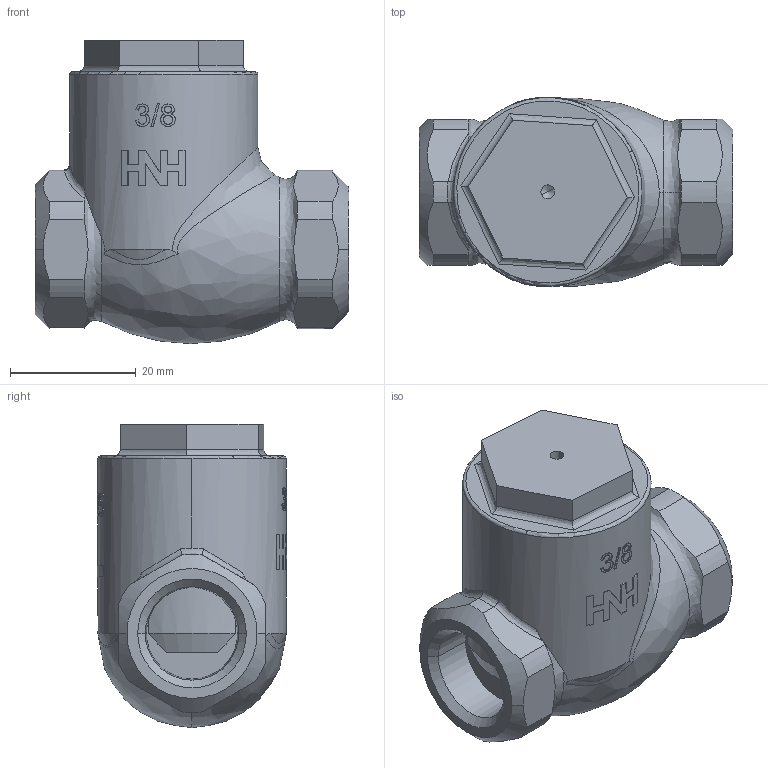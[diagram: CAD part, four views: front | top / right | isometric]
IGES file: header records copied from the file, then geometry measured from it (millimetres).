
Global section: file name: No Iges File Name specified; native system: AutoDesk Inventor R12.0; preprocessor: AutoDesk Inventor Iges Exporter R12.0; date: 20110303.144120; units: millimetre
Bounding box: 50 x 30.2 x 48.3 mm (x, y, z)
Volume: 32415 mm3; surface area: 9838.3 mm2
Topology: 1 solids, 2 shells, 238 faces, 651 edges, 431 vertices
Faces by surface type: bspline 90, plane 86, cylinder 27, revolution 25, cone 8, torus 2
